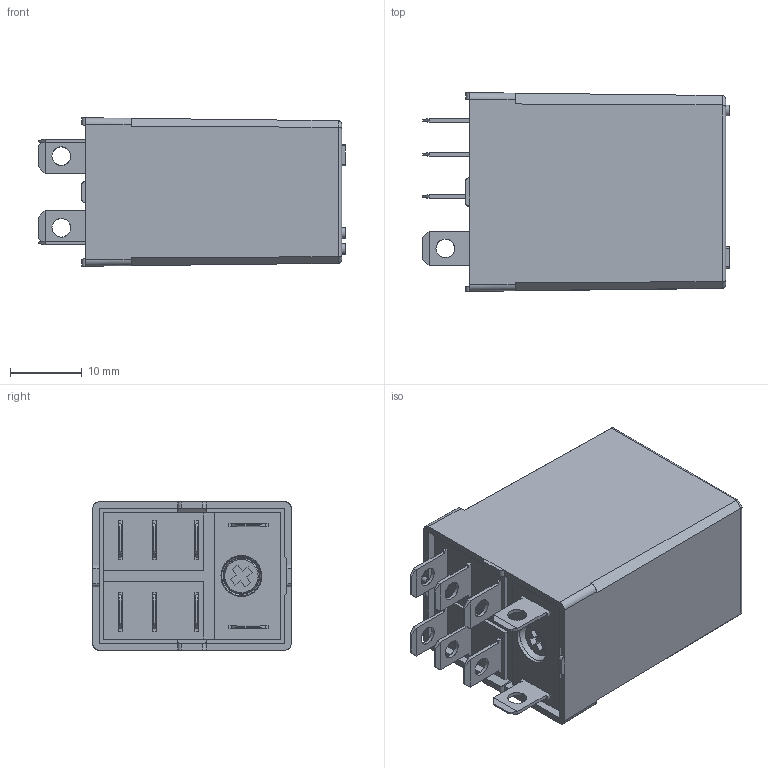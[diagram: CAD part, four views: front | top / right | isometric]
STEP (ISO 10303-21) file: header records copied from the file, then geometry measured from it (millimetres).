
FILE_DESCRIPTION(('STEP AP214'),'2;1');
FILE_NAME('5632_senza pulsante-nota tecnica T-catalogo.stp','2010-11-18T18:12:02',(''),(''),'2007.1.106','THINKDESIGN','');
FILE_SCHEMA(('AUTOMOTIVE_DESIGN'));
Length unit declared in the file: millimetre
Products named in the file (1): None
Bounding box: 42.8 x 27.73 x 20.73 mm (x, y, z)
Surface area: 7823.4 mm2 (no closed solid volume)
Topology: 0 solids, 0 shells, 235 faces, 1300 edges, 1273 vertices
Faces by surface type: plane 172, cylinder 35, bspline 28
Full cylindrical faces by diameter (mm): 1.5 x2, 2.6 x8, 5 x1
Entity records: 13666 total; most frequent: CARTESIAN_POINT 4453, DIRECTION 1516, COMPOSITE_CURVE_SEGMENT 1300, TRIMMED_CURVE 1034, VECTOR 1010, LINE 1010, AXIS2_PLACEMENT_3D 253, OUTER_BOUNDARY_CURVE 235
